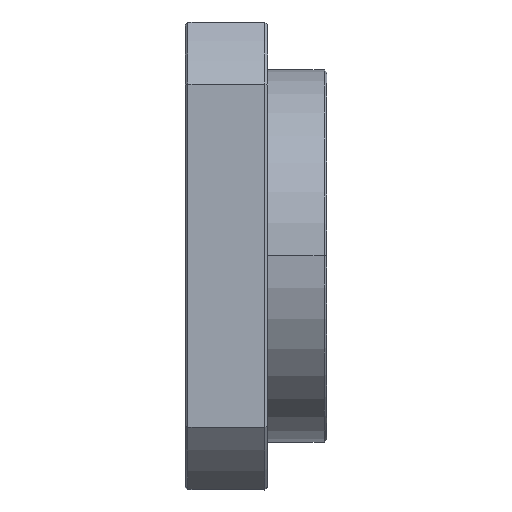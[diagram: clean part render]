
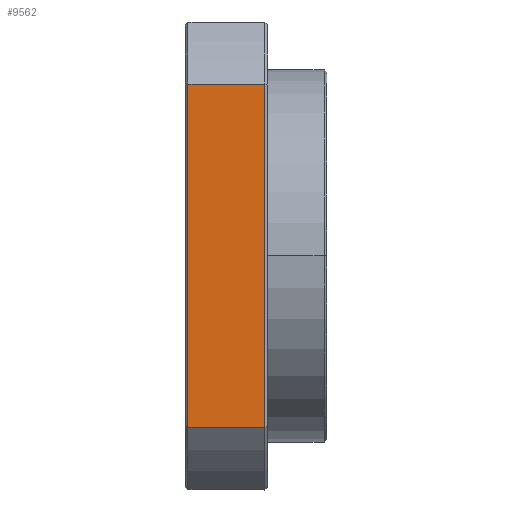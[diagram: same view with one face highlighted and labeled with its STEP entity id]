
A CAD part, top view. The second image highlights one B-rep face of the part: STEP entity #9562.
In plain terms, the highlighted planar face has unit normal (0, 0, 1).
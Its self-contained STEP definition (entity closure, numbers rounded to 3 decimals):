
#520 = VERTEX_POINT ( 'NONE', #9381 ) ;
#1906 = EDGE_CURVE ( 'NONE', #9280, #4626, #10648, .T. ) ;
#1940 = ORIENTED_EDGE ( 'NONE', *, *, #8972, .F. ) ;
#2785 = LINE ( 'NONE', #5428, #7096 ) ;
#3112 = DIRECTION ( 'NONE',  ( 0., 0., 1. ) ) ;
#3182 = ORIENTED_EDGE ( 'NONE', *, *, #3496, .T. ) ;
#3184 = PLANE ( 'NONE',  #12973 ) ;
#3496 = EDGE_CURVE ( 'NONE', #10416, #4626, #14083, .T. ) ;
#4474 = DIRECTION ( 'NONE',  ( 1., 0., 0. ) ) ;
#4561 = FACE_OUTER_BOUND ( 'NONE', #4692, .T. ) ;
#4626 = VERTEX_POINT ( 'NONE', #17795 ) ;
#4692 = EDGE_LOOP ( 'NONE', ( #1940, #9600, #3182, #17285 ) ) ;
#5322 = DIRECTION ( 'NONE',  ( 0., 1., 0. ) ) ;
#5428 = CARTESIAN_POINT ( 'NONE',  ( -31.582, -20.486, 39.5 ) ) ;
#5702 = DIRECTION ( 'NONE',  ( -1., 0., 0. ) ) ;
#5748 = DIRECTION ( 'NONE',  ( -1., 0., 0. ) ) ;
#6255 = VECTOR ( 'NONE', #5322, 1000. ) ;
#7096 = VECTOR ( 'NONE', #5702, 1000. ) ;
#7307 = EDGE_CURVE ( 'NONE', #520, #10416, #13611, .T. ) ;
#8972 = EDGE_CURVE ( 'NONE', #520, #9280, #2785, .T. ) ;
#9040 = CARTESIAN_POINT ( 'NONE',  ( -31.582, 37.505, 39.5 ) ) ;
#9280 = VERTEX_POINT ( 'NONE', #14833 ) ;
#9381 = CARTESIAN_POINT ( 'NONE',  ( -31.582, -20.486, 39.5 ) ) ;
#9562 = ADVANCED_FACE ( 'NONE', ( #4561 ), #3184, .T. ) ;
#9600 = ORIENTED_EDGE ( 'NONE', *, *, #7307, .T. ) ;
#10136 = CARTESIAN_POINT ( 'NONE',  ( -44.582, -20.486, 39.5 ) ) ;
#10416 = VERTEX_POINT ( 'NONE', #9040 ) ;
#10648 = LINE ( 'NONE', #17855, #6255 ) ;
#10871 = VECTOR ( 'NONE', #5748, 1000. ) ;
#11739 = VECTOR ( 'NONE', #13184, 1000. ) ;
#12715 = CARTESIAN_POINT ( 'NONE',  ( -44.582, 37.505, 39.5 ) ) ;
#12973 = AXIS2_PLACEMENT_3D ( 'NONE', #10136, #3112, #4474 ) ;
#13184 = DIRECTION ( 'NONE',  ( 0., 1., 0. ) ) ;
#13611 = LINE ( 'NONE', #17494, #11739 ) ;
#14083 = LINE ( 'NONE', #12715, #10871 ) ;
#14833 = CARTESIAN_POINT ( 'NONE',  ( -44.582, -20.486, 39.5 ) ) ;
#17285 = ORIENTED_EDGE ( 'NONE', *, *, #1906, .F. ) ;
#17494 = CARTESIAN_POINT ( 'NONE',  ( -31.582, -20.486, 39.5 ) ) ;
#17795 = CARTESIAN_POINT ( 'NONE',  ( -44.582, 37.505, 39.5 ) ) ;
#17855 = CARTESIAN_POINT ( 'NONE',  ( -44.582, -20.834, 39.5 ) ) ;
